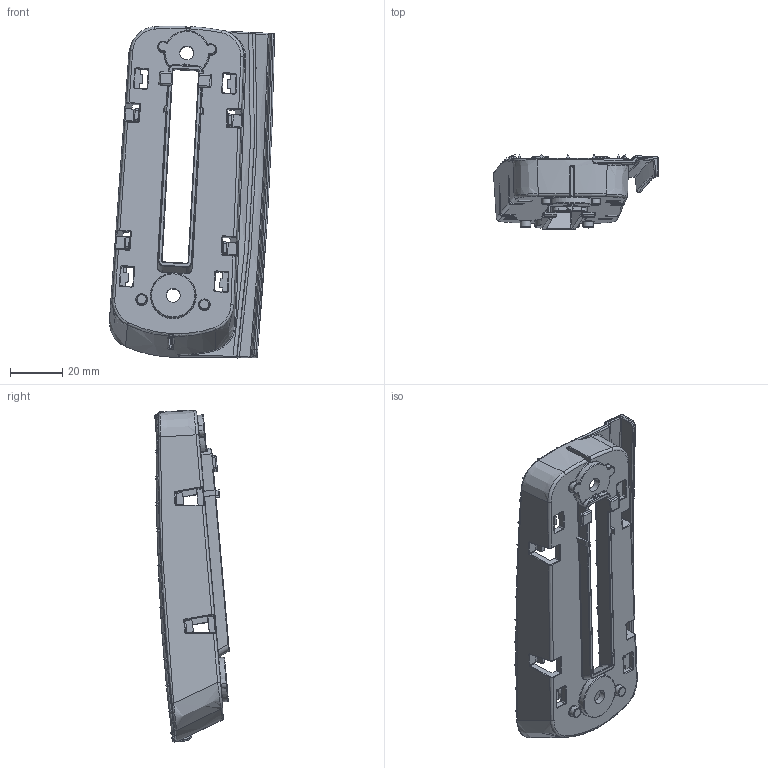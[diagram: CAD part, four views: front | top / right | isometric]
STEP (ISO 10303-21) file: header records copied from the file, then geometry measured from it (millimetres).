
FILE_DESCRIPTION(('CATIA V5 STEP Exchange','CAx-IF Rec.Pracs.--- Model Styling and Organization---1.4--- 2014-01-23'),'2;1');
FILE_NAME('C:\Users\luhaitao\Desktop\靠背一键放倒功能\第四次样件\SHT00018456.stp','2025-10-29T01:07:41+00:00',('none'),('none'),'CATIA Version 5-6 Release 2017','CATIA V5 STEP AP214','none');
FILE_SCHEMA(('AUTOMOTIVE_DESIGN { 1 0 10303 214 1 1 1 1 }'));
Products named in the file (1): SHT00018456-002
Bounding box: 63.02 x 28.46 x 126.7 mm (x, y, z)
Volume: 28150.5 mm3; surface area: 26830.1 mm2
Topology: 1 solids, 1 shells, 1108 faces, 2700 edges, 1544 vertices
Faces by surface type: cylinder 377, bspline 261, plane 215, torus 109, cone 82, sphere 64
Entity records: 48119 total; most frequent: CARTESIAN_POINT 26116, ORIENTED_EDGE 5268, DIRECTION 3120, EDGE_CURVE 2634, VERTEX_POINT 1542, AXIS2_PLACEMENT_3D 1477, EDGE_LOOP 1144, ADVANCED_FACE 1108
